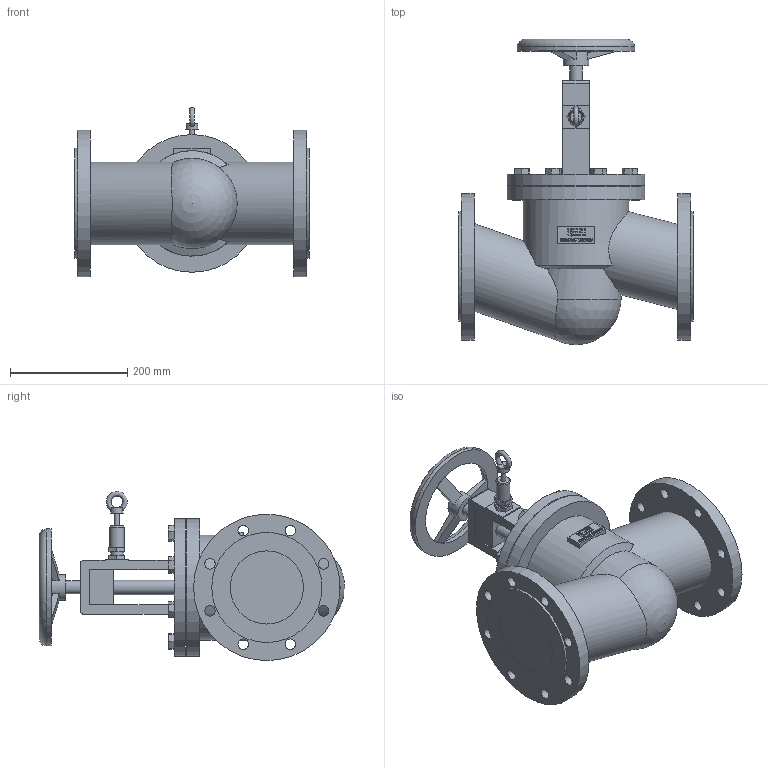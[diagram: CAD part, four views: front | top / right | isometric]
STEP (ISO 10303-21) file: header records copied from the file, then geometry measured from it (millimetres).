
FILE_DESCRIPTION(/* description */ (''),/* implementation_level */ '2;1');
FILE_NAME(/* name */ '100-247M-DN125-PN16.stp',/* time_stamp */ '2024-07-09T08:19:56+02:00',/* author */ ('roger.thijssen'),/* organization */ (''),/* preprocessor_version */ 'ST-DEVELOPER v20',/* originating_system */ 'Autodesk Inventor 2024',/* authorisation */ '');
FILE_SCHEMA (('AUTOMOTIVE_DESIGN { 1 0 10303 214 3 1 1 }'));
Length unit declared in the file: millimetre
Products named in the file (1): 100-247M-DN125-PN16
Bounding box: 400 x 521.42 x 289 mm (x, y, z)
Volume: 13179357.5 mm3; surface area: 677501.6 mm2
Topology: 1 solids, 1 shells, 396 faces, 1050 edges, 699 vertices
Faces by surface type: plane 270, bspline 67, cylinder 52, cone 4, torus 2, sphere 1
Full cylindrical faces by diameter (mm): 9 x1, 18 x16, 21 x1, 22 x1, 25 x2, 44 x1, 125 x2, 141 x2, 150 x1, 170 x1, 180 x1, 188 x2, 200 x1, 235 x2, 250 x2
Entity records: 13576 total; most frequent: CARTESIAN_POINT 3527, ORIENTED_EDGE 2098, DIRECTION 1675, EDGE_CURVE 1049, LINE 755, VECTOR 755, VERTEX_POINT 699, EDGE_LOOP 484
